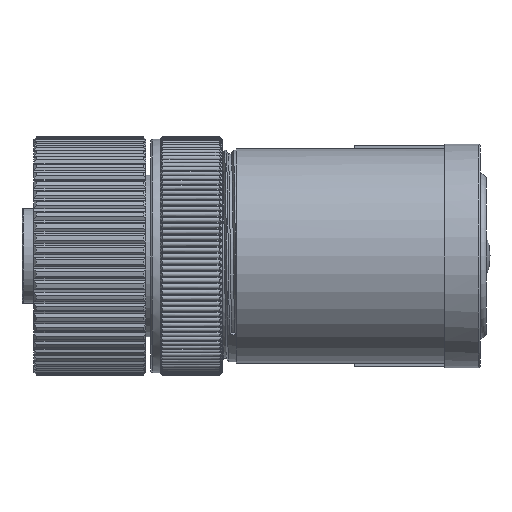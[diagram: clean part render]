
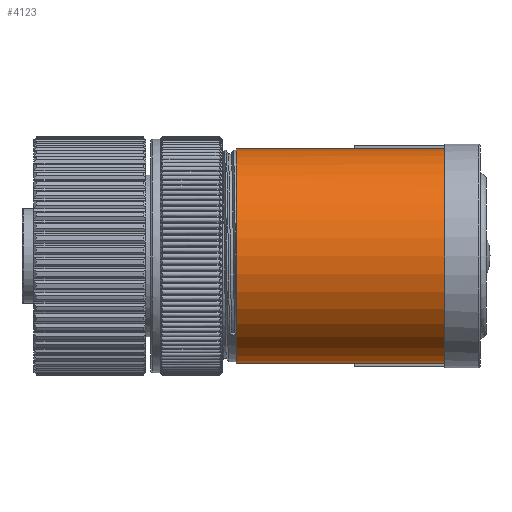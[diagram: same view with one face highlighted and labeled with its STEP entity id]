
A CAD part, left-side view. The second image highlights one B-rep face of the part: STEP entity #4123.
In plain terms, the highlighted cylindrical face has radius 9 mm (diameter 18 mm), a full revolution.
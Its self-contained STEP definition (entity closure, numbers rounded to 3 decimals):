
#612=CYLINDRICAL_SURFACE('',#19868,9.);
#2080=LINE('',#28143,#3099);
#2081=LINE('',#28169,#3100);
#2082=LINE('',#28171,#3101);
#3099=VECTOR('',#22289,1.);
#3100=VECTOR('',#22290,1.);
#3101=VECTOR('',#22291,1.);
#4123=ADVANCED_FACE('',(#6478,#6479),#612,.T.);
#5746=B_SPLINE_CURVE_WITH_KNOTS('',3,(#28146,#28147,#28148,#28149,#28150,
#28151,#28152,#28153,#28154,#28155,#28156,#28157,#28158,#28159,#28160,#28161,
#28162,#28163,#28164,#28165,#28166,#28167),.UNSPECIFIED.,.F.,.F.,(4,2,2,
2,2,2,2,2,2,2,4),(0.,0.062,0.125,0.25,0.375,0.5,0.625,0.75,
0.875,0.938,1.),.UNSPECIFIED.);
#6478=FACE_BOUND('',#6850,.T.);
#6479=FACE_BOUND('',#6851,.T.);
#6850=EDGE_LOOP('',(#8340,#8341,#8342,#8343,#8344));
#6851=EDGE_LOOP('',(#8345));
#8340=ORIENTED_EDGE('',*,*,#15878,.F.);
#8341=ORIENTED_EDGE('',*,*,#15879,.T.);
#8342=ORIENTED_EDGE('',*,*,#15880,.T.);
#8343=ORIENTED_EDGE('',*,*,#15881,.T.);
#8344=ORIENTED_EDGE('',*,*,#15882,.F.);
#8345=ORIENTED_EDGE('',*,*,#15874,.F.);
#14059=VERTEX_POINT('',#28127);
#14062=VERTEX_POINT('',#28144);
#14063=VERTEX_POINT('',#28145);
#14064=VERTEX_POINT('',#28168);
#14065=VERTEX_POINT('',#28170);
#14066=VERTEX_POINT('',#28172);
#15874=EDGE_CURVE('',#14059,#14059,#18706,.T.);
#15878=EDGE_CURVE('',#14062,#14063,#2080,.T.);
#15879=EDGE_CURVE('',#14062,#14064,#5746,.T.);
#15880=EDGE_CURVE('',#14064,#14065,#2081,.T.);
#15881=EDGE_CURVE('',#14065,#14066,#2082,.T.);
#15882=EDGE_CURVE('',#14063,#14066,#18707,.T.);
#18706=CIRCLE('',#19865,9.);
#18707=CIRCLE('',#19867,9.);
#19865=AXIS2_PLACEMENT_3D('',#28126,#22284,#22285);
#19867=AXIS2_PLACEMENT_3D('',#28173,#22292,#22293);
#19868=AXIS2_PLACEMENT_3D('',#28174,#22294,#22295);
#22284=DIRECTION('',(0.,1.,0.));
#22285=DIRECTION('',(-1.,0.,0.));
#22289=DIRECTION('',(0.,-1.,0.));
#22290=DIRECTION('',(0.,-1.,0.));
#22291=DIRECTION('',(0.,-1.,0.));
#22292=DIRECTION('',(0.,-1.,0.));
#22293=DIRECTION('',(1.,0.,0.));
#22294=DIRECTION('',(0.,1.,0.));
#22295=DIRECTION('',(1.,0.,0.));
#28126=CARTESIAN_POINT('',(0.,-18.,0.));
#28127=CARTESIAN_POINT('',(-9.,-18.,0.));
#28143=CARTESIAN_POINT('',(1.338,-27.9,8.9));
#28144=CARTESIAN_POINT('',(1.338,-27.919,8.9));
#28145=CARTESIAN_POINT('',(1.338,-35.5,8.9));
#28146=CARTESIAN_POINT('',(1.338,-27.919,8.9));
#28147=CARTESIAN_POINT('',(1.328,-27.225,8.902));
#28148=CARTESIAN_POINT('',(1.804,-26.649,8.828));
#28149=CARTESIAN_POINT('',(2.643,-25.599,8.614));
#28150=CARTESIAN_POINT('',(3.088,-25.112,8.468));
#28151=CARTESIAN_POINT('',(4.41,-23.682,7.904));
#28152=CARTESIAN_POINT('',(5.294,-22.775,7.358));
#28153=CARTESIAN_POINT('',(6.877,-21.152,5.905));
#28154=CARTESIAN_POINT('',(7.604,-20.414,4.974));
#28155=CARTESIAN_POINT('',(8.67,-19.334,2.719));
#28156=CARTESIAN_POINT('',(8.998,-19.002,1.365));
#28157=CARTESIAN_POINT('',(9.002,-18.998,-1.34));
#28158=CARTESIAN_POINT('',(8.676,-19.327,-2.698));
#28159=CARTESIAN_POINT('',(7.616,-20.402,-4.955));
#28160=CARTESIAN_POINT('',(6.891,-21.138,-5.889));
#28161=CARTESIAN_POINT('',(5.305,-22.763,-7.35));
#28162=CARTESIAN_POINT('',(4.42,-23.672,-7.898));
#28163=CARTESIAN_POINT('',(3.101,-25.096,-8.462));
#28164=CARTESIAN_POINT('',(2.658,-25.582,-8.609));
#28165=CARTESIAN_POINT('',(1.822,-26.625,-8.824));
#28166=CARTESIAN_POINT('',(1.338,-27.204,-8.9));
#28167=CARTESIAN_POINT('',(1.338,-27.9,-8.9));
#28168=CARTESIAN_POINT('',(1.338,-27.9,-8.9));
#28169=CARTESIAN_POINT('',(1.338,-27.9,-8.9));
#28170=CARTESIAN_POINT('',(1.338,-27.919,-8.9));
#28171=CARTESIAN_POINT('',(1.338,-27.9,-8.9));
#28172=CARTESIAN_POINT('',(1.338,-35.5,-8.9));
#28173=CARTESIAN_POINT('',(0.,-35.5,0.));
#28174=CARTESIAN_POINT('',(0.,-17.5,0.));
